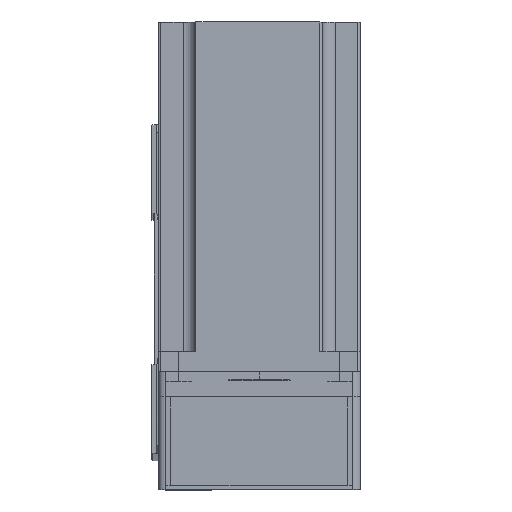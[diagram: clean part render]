
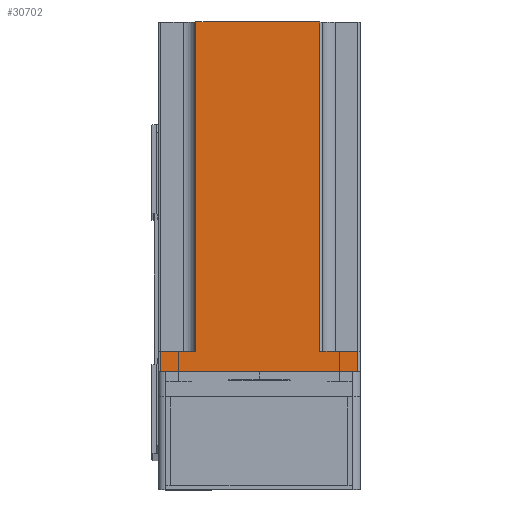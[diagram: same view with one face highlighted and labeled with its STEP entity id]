
A CAD part, top view. The second image highlights one B-rep face of the part: STEP entity #30702.
In plain terms, the highlighted planar face has unit normal (0, 0, 1) as drawn and (-1, 0, 0) by its records, which use the part's own axes.
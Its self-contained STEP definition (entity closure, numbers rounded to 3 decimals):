
#821 = EDGE_CURVE ( 'NONE', #24979, #51552, #25724, .T. ) ;
#1378 = LINE ( 'NONE', #3605, #46743 ) ;
#2796 = EDGE_CURVE ( 'NONE', #19347, #11652, #24885, .T. ) ;
#2969 = LINE ( 'NONE', #19586, #46943 ) ;
#3605 = CARTESIAN_POINT ( 'NONE',  ( -40., 25., 8. ) ) ;
#5653 = ORIENTED_EDGE ( 'NONE', *, *, #39758, .T. ) ;
#5777 = LINE ( 'NONE', #51493, #51150 ) ;
#6378 = DIRECTION ( 'NONE',  ( 0., -1., 0. ) ) ;
#6600 = EDGE_CURVE ( 'NONE', #27831, #42499, #49717, .T. ) ;
#6807 = DIRECTION ( 'NONE',  ( 1., 0., 0. ) ) ;
#7951 = VECTOR ( 'NONE', #31933, 1000. ) ;
#9342 = ORIENTED_EDGE ( 'NONE', *, *, #2796, .F. ) ;
#10251 = CARTESIAN_POINT ( 'NONE',  ( -40., 39., 0. ) ) ;
#11652 = VERTEX_POINT ( 'NONE', #20221 ) ;
#11811 = VECTOR ( 'NONE', #33841, 1000. ) ;
#13320 = VERTEX_POINT ( 'NONE', #10251 ) ;
#19347 = VERTEX_POINT ( 'NONE', #24504 ) ;
#19586 = CARTESIAN_POINT ( 'NONE',  ( -40., 39., 138.3 ) ) ;
#19986 = CARTESIAN_POINT ( 'NONE',  ( -40., -40., 8. ) ) ;
#20221 = CARTESIAN_POINT ( 'NONE',  ( -40., -39., 8. ) ) ;
#21027 = LINE ( 'NONE', #27537, #7951 ) ;
#21122 = VERTEX_POINT ( 'NONE', #55704 ) ;
#21618 = CARTESIAN_POINT ( 'NONE',  ( -40., 39., 8. ) ) ;
#22845 = VECTOR ( 'NONE', #6378, 1000. ) ;
#22931 = DIRECTION ( 'NONE',  ( 0., 1., 0. ) ) ;
#24504 = CARTESIAN_POINT ( 'NONE',  ( -40., -24., 8. ) ) ;
#24519 = EDGE_CURVE ( 'NONE', #13320, #21122, #46211, .T. ) ;
#24885 = LINE ( 'NONE', #19986, #11811 ) ;
#24979 = VERTEX_POINT ( 'NONE', #35706 ) ;
#25724 = LINE ( 'NONE', #45662, #55314 ) ;
#26480 = ORIENTED_EDGE ( 'NONE', *, *, #6600, .T. ) ;
#27056 = ORIENTED_EDGE ( 'NONE', *, *, #821, .F. ) ;
#27537 = CARTESIAN_POINT ( 'NONE',  ( -40., -24., 138.3 ) ) ;
#27580 = DIRECTION ( 'NONE',  ( 0., -1., 0. ) ) ;
#27831 = VERTEX_POINT ( 'NONE', #40041 ) ;
#28534 = EDGE_CURVE ( 'NONE', #21122, #11652, #5777, .T. ) ;
#30392 = EDGE_CURVE ( 'NONE', #27831, #24979, #1378, .T. ) ;
#30702 = ADVANCED_FACE ( 'NONE', ( #54979 ), #37341, .F. ) ;
#31933 = DIRECTION ( 'NONE',  ( 0., 0., 1. ) ) ;
#32817 = AXIS2_PLACEMENT_3D ( 'NONE', #33100, #6807, #37546 ) ;
#32856 = CARTESIAN_POINT ( 'NONE',  ( -40., -40., 0. ) ) ;
#33100 = CARTESIAN_POINT ( 'NONE',  ( -40., -40., 138.3 ) ) ;
#33841 = DIRECTION ( 'NONE',  ( 0., -1., 0. ) ) ;
#33950 = DIRECTION ( 'NONE',  ( 0., 0., 1. ) ) ;
#35495 = ORIENTED_EDGE ( 'NONE', *, *, #30392, .F. ) ;
#35706 = CARTESIAN_POINT ( 'NONE',  ( -40., 25., 138.3 ) ) ;
#37341 = PLANE ( 'NONE',  #32817 ) ;
#37546 = DIRECTION ( 'NONE',  ( 0., 0., -1. ) ) ;
#38018 = VECTOR ( 'NONE', #22931, 1000. ) ;
#39758 = EDGE_CURVE ( 'NONE', #19347, #51552, #21027, .T. ) ;
#40041 = CARTESIAN_POINT ( 'NONE',  ( -40., 25., 8. ) ) ;
#42499 = VERTEX_POINT ( 'NONE', #21618 ) ;
#42783 = EDGE_CURVE ( 'NONE', #42499, #13320, #2969, .T. ) ;
#44855 = CARTESIAN_POINT ( 'NONE',  ( -40., 40., 8. ) ) ;
#45267 = ORIENTED_EDGE ( 'NONE', *, *, #28534, .T. ) ;
#45662 = CARTESIAN_POINT ( 'NONE',  ( -40., -40., 138.3 ) ) ;
#45683 = ORIENTED_EDGE ( 'NONE', *, *, #24519, .T. ) ;
#46211 = LINE ( 'NONE', #32856, #22845 ) ;
#46442 = ORIENTED_EDGE ( 'NONE', *, *, #42783, .T. ) ;
#46743 = VECTOR ( 'NONE', #56444, 1000. ) ;
#46943 = VECTOR ( 'NONE', #50188, 1000. ) ;
#49717 = LINE ( 'NONE', #44855, #38018 ) ;
#50133 = CARTESIAN_POINT ( 'NONE',  ( -40., -24., 138.3 ) ) ;
#50188 = DIRECTION ( 'NONE',  ( 0., 0., -1. ) ) ;
#51150 = VECTOR ( 'NONE', #33950, 1000. ) ;
#51493 = CARTESIAN_POINT ( 'NONE',  ( -40., -39., 138.3 ) ) ;
#51552 = VERTEX_POINT ( 'NONE', #50133 ) ;
#54979 = FACE_OUTER_BOUND ( 'NONE', #55096, .T. ) ;
#55096 = EDGE_LOOP ( 'NONE', ( #9342, #5653, #27056, #35495, #26480, #46442, #45683, #45267 ) ) ;
#55314 = VECTOR ( 'NONE', #27580, 1000. ) ;
#55704 = CARTESIAN_POINT ( 'NONE',  ( -40., -39., 0. ) ) ;
#56444 = DIRECTION ( 'NONE',  ( 0., 0., 1. ) ) ;
